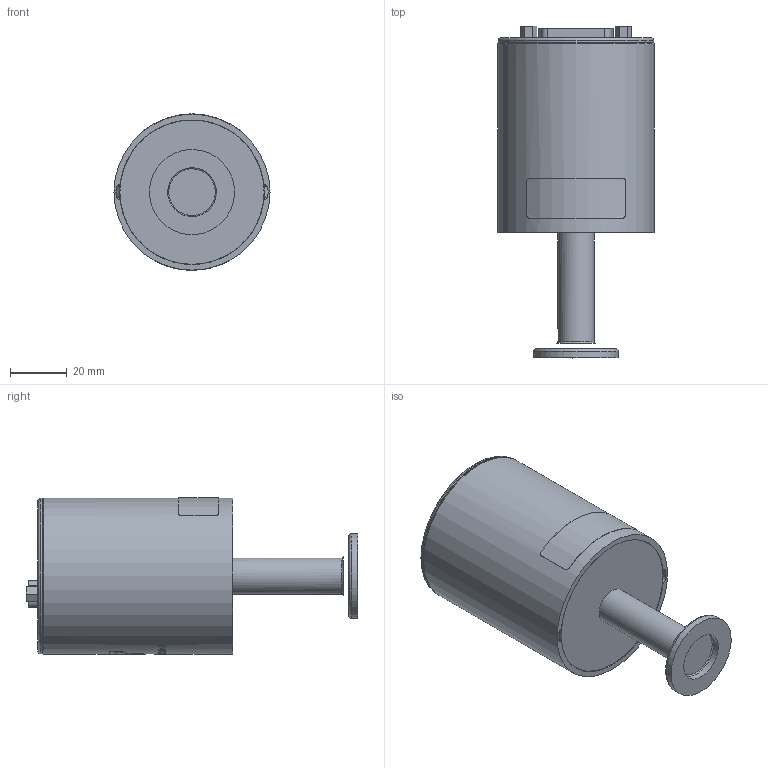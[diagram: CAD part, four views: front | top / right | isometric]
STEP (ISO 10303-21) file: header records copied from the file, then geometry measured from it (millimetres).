
FILE_DESCRIPTION(/* description */ (''),/* implementation_level */ '2;1');
FILE_NAME(/* name */ 'Linxon 16 KF.stp',/* time_stamp */ '2024-03-14T15:33:16+01:00',/* author */ ('quen001'),/* organization */ (''),/* preprocessor_version */ 'ST-DEVELOPER v19.2',/* originating_system */ 'Autodesk Inventor 2023',/* authorisation */ '');
FILE_SCHEMA (('AUTOMOTIVE_DESIGN { 1 0 10303 214 3 1 1 }'));
Length unit declared in the file: millimetre
Products named in the file (1): Linxon 16 KF
Bounding box: 55 x 117 x 55.1 mm (x, y, z)
Volume: 168653.1 mm3; surface area: 42892.1 mm2
Topology: 1 solids, 3 shells, 466 faces, 1224 edges, 811 vertices
Faces by surface type: plane 240, cylinder 105, bspline 59, cone 43, sphere 15, torus 4
Full cylindrical faces by diameter (mm): 0.8 x15, 1.3 x1, 2.156 x2, 2.8 x1, 2.845 x2, 2.9 x1, 3.2 x3, 3.5 x1, 10.2 x1, 10.6 x1, 12.7 x1, 17.2 x1, 30 x1, 50.85 x1, 51 x1, 54.2 x1, 54.8 x1, 55 x1
Entity records: 16869 total; most frequent: CARTESIAN_POINT 5029, ORIENTED_EDGE 2418, DIRECTION 2172, EDGE_CURVE 1209, VERTEX_POINT 809, AXIS2_PLACEMENT_3D 777, LINE 618, VECTOR 618
